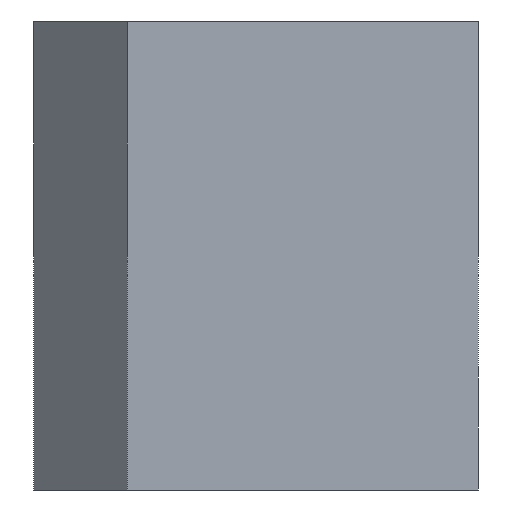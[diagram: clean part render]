
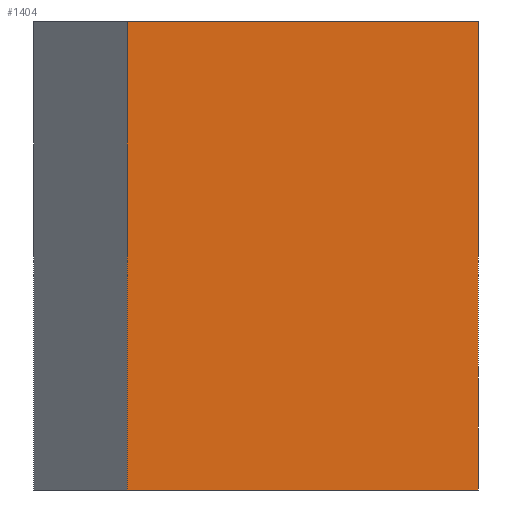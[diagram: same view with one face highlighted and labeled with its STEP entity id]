
A CAD part, left-side view. The second image highlights one B-rep face of the part: STEP entity #1404.
In plain terms, the highlighted planar face has unit normal (-1, 0, 0).
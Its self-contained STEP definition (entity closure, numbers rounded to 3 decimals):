
#39 = LINE ( 'NONE', #1043, #1399 ) ;
#61 = CARTESIAN_POINT ( 'NONE',  ( -27., 11., 20. ) ) ;
#108 = CARTESIAN_POINT ( 'NONE',  ( -27., 11., -20. ) ) ;
#124 = VERTEX_POINT ( 'NONE', #269 ) ;
#157 = FACE_OUTER_BOUND ( 'NONE', #1488, .T. ) ;
#174 = EDGE_CURVE ( 'NONE', #124, #1406, #1148, .T. ) ;
#196 = DIRECTION ( 'NONE',  ( 0., 0., 1. ) ) ;
#232 = ORIENTED_EDGE ( 'NONE', *, *, #736, .T. ) ;
#269 = CARTESIAN_POINT ( 'NONE',  ( -27., -19., -20. ) ) ;
#337 = VECTOR ( 'NONE', #1314, 1000. ) ;
#465 = AXIS2_PLACEMENT_3D ( 'NONE', #568, #1789, #695 ) ;
#515 = ORIENTED_EDGE ( 'NONE', *, *, #1394, .F. ) ;
#568 = CARTESIAN_POINT ( 'NONE',  ( -27., -19., -20. ) ) ;
#635 = ORIENTED_EDGE ( 'NONE', *, *, #1631, .F. ) ;
#695 = DIRECTION ( 'NONE',  ( 0., -1., 0. ) ) ;
#736 = EDGE_CURVE ( 'NONE', #1389, #124, #39, .T. ) ;
#833 = CARTESIAN_POINT ( 'NONE',  ( -27., -19., 20. ) ) ;
#844 = VERTEX_POINT ( 'NONE', #61 ) ;
#1019 = VECTOR ( 'NONE', #1527, 1000. ) ;
#1043 = CARTESIAN_POINT ( 'NONE',  ( -27., -19., -20. ) ) ;
#1126 = LINE ( 'NONE', #1258, #1019 ) ;
#1148 = LINE ( 'NONE', #1435, #1591 ) ;
#1247 = PLANE ( 'NONE',  #465 ) ;
#1258 = CARTESIAN_POINT ( 'NONE',  ( -27., -19., 20. ) ) ;
#1314 = DIRECTION ( 'NONE',  ( 0., 0., 1. ) ) ;
#1389 = VERTEX_POINT ( 'NONE', #108 ) ;
#1394 = EDGE_CURVE ( 'NONE', #844, #1406, #1126, .T. ) ;
#1399 = VECTOR ( 'NONE', #1438, 1000. ) ;
#1404 = ADVANCED_FACE ( 'NONE', ( #157 ), #1247, .T. ) ;
#1406 = VERTEX_POINT ( 'NONE', #833 ) ;
#1435 = CARTESIAN_POINT ( 'NONE',  ( -27., -19., -20. ) ) ;
#1438 = DIRECTION ( 'NONE',  ( 0., -1., 0. ) ) ;
#1488 = EDGE_LOOP ( 'NONE', ( #635, #232, #1775, #515 ) ) ;
#1527 = DIRECTION ( 'NONE',  ( 0., -1., 0. ) ) ;
#1554 = CARTESIAN_POINT ( 'NONE',  ( -27., 11., -20. ) ) ;
#1579 = LINE ( 'NONE', #1554, #337 ) ;
#1591 = VECTOR ( 'NONE', #196, 1000. ) ;
#1631 = EDGE_CURVE ( 'NONE', #1389, #844, #1579, .T. ) ;
#1775 = ORIENTED_EDGE ( 'NONE', *, *, #174, .T. ) ;
#1789 = DIRECTION ( 'NONE',  ( -1., 0., 0. ) ) ;
